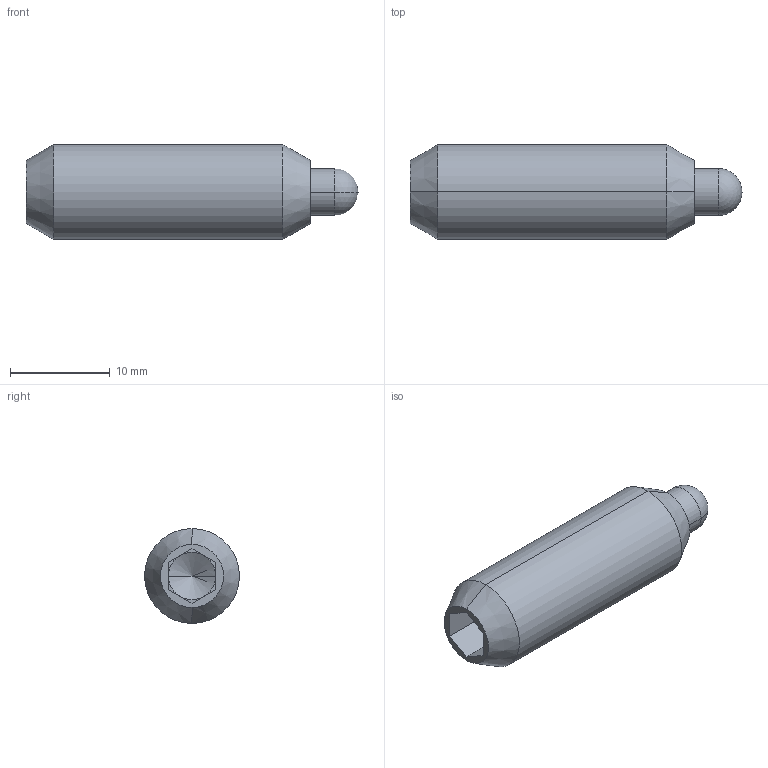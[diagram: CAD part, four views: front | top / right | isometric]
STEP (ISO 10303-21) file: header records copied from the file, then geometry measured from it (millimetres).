
FILE_DESCRIPTION (( 'STEP AP203' ), '1' );
FILE_NAME ('3B20.W148.step', '2009-10-12T13:55:15', ( 'Wixroyd' ), ( 'Wixroyd' ), 'SwSTEP 2.0', 'SolidWorks 2009', '' );
FILE_SCHEMA (( 'CONFIG_CONTROL_DESIGN' ));
Length unit declared in the file: inch
Products named in the file (3): Part1_3B20.W148; Part2_3B20.W148; 3B20.W148
Assembly tree (2 placements, depth 2):
  3B20.W148
    Part2_3B20.W148
    Part1_3B20.W148
Bounding box: 33.35 x 9.53 x 9.53 mm (x, y, z)
Volume: 1388 mm3; surface area: 1650.3 mm2
Topology: 2 solids, 2 shells, 43 faces, 92 edges, 52 vertices
Faces by surface type: plane 17, cylinder 12, cone 12, sphere 2
Entity records: 1413 total; most frequent: DIRECTION 220, CARTESIAN_POINT 184, ORIENTED_EDGE 172, EDGE_CURVE 86, AXIS2_PLACEMENT_3D 86, VERTEX_POINT 50, VECTOR 48, LINE 48
